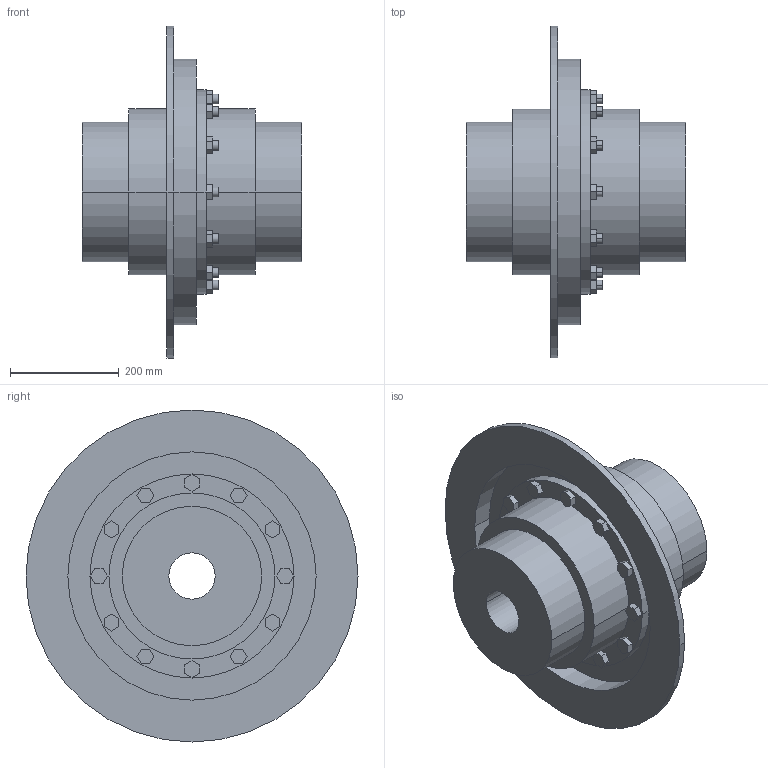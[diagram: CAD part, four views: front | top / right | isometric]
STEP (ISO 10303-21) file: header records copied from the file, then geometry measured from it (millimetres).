
FILE_DESCRIPTION((''),'2;1');
FILE_NAME('A19126700-0_ASM','2018-11-13T',('AB_Roschiwal'),('RENK AG'),'PRO/ENGINEER BY PARAMETRIC TECHNOLOGY CORPORATION, 2015440','PRO/ENGINEER BY PARAMETRIC TECHNOLOGY CORPORATION, 2015440','');
FILE_SCHEMA(('CONFIG_CONTROL_DESIGN'));
Length unit declared in the file: millimetre
Products named in the file (4): LBKT160_GEHAEUSE; LBKT160_NABE; LBKT160_BREMSSCHEIBE; A19126700-0_ASM
Assembly tree (4 placements, depth 2):
  A19126700-0_ASM
    LBKT160_GEHAEUSE
    LBKT160_NABE  x2
    LBKT160_BREMSSCHEIBE
Bounding box: 403 x 610 x 610 mm (x, y, z)
Volume: 27030262.5 mm3; surface area: 1897018.2 mm2
Topology: 4 solids, 4 shells, 294 faces, 708 edges, 472 vertices
Faces by surface type: plane 202, cylinder 92
Entity records: 8412 total; most frequent: DIRECTION 1432, CARTESIAN_POINT 1430, ORIENTED_EDGE 1368, EDGE_CURVE 684, VECTOR 516, LINE 516, AXIS2_PLACEMENT_3D 458, VERTEX_POINT 456
